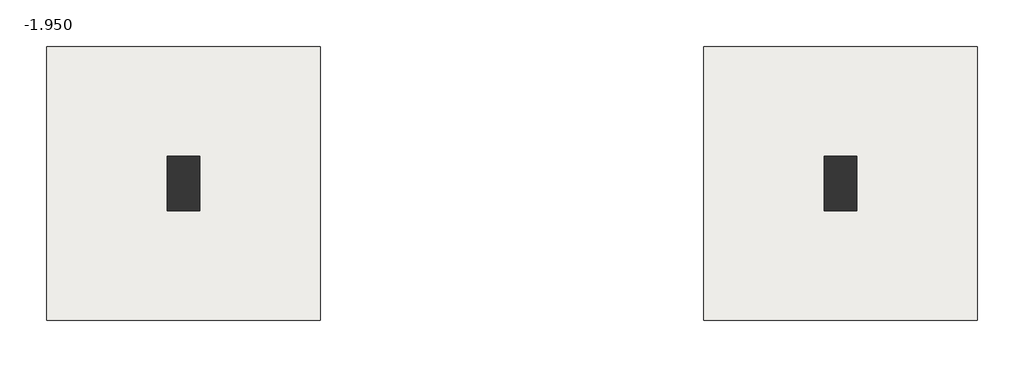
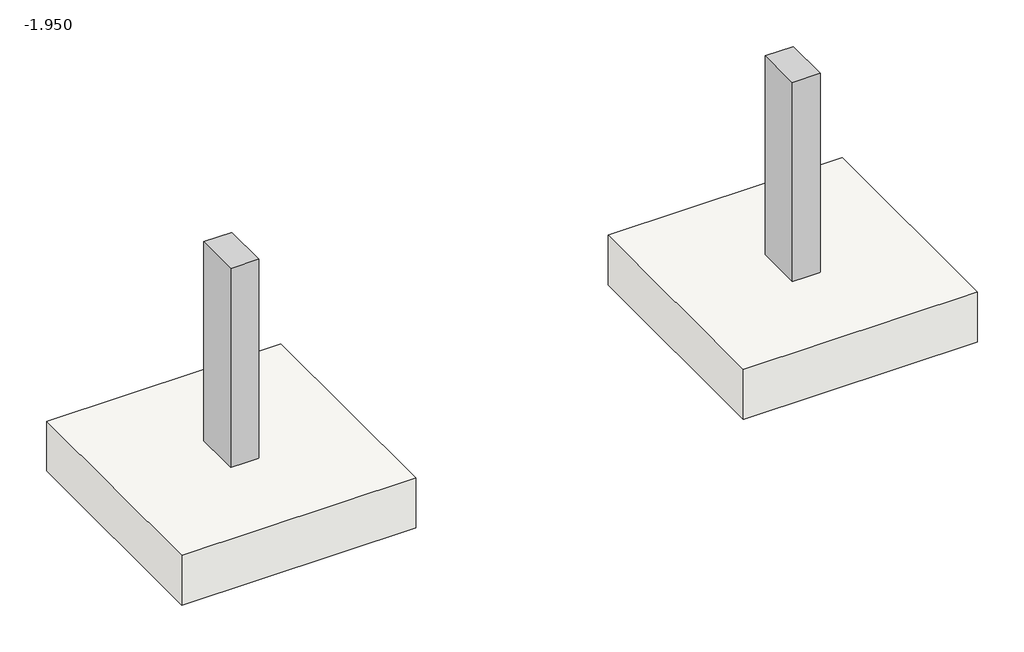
# One storey: 2 columns, 2 slabs.
"""IFC4 building model written with IfcOpenShell, lengths in millimetres."""

from ifc_helpers import new_model, si_unit, frame, origin, place, context, project, spatial, polyline, outline, extrude, transform, mapped, element, save
from components import dj_d551b5b0

model = new_model("IFC4")

# Units and contexts
model_context = context("Model", 3, world=origin())
ifc_project = project(units=[si_unit("LENGTHUNIT", "METRE", prefix="MILLI")], contexts=[model_context])

# Site, building, storey
site = spatial("IfcSite", under=ifc_project)
building = spatial("IfcBuilding", under=site)
storey = spatial("IfcBuildingStorey", under=building, Name="-1.950", Elevation=-1950.0)

# Columns
placement = place(None, origin())
element("IfcColumn", 1, ObjectType="混凝土 - 矩形 - 柱 : KZ2  240X400", at=placement, inside=storey, context=model_context, shape_type="SweptSolid", body=[
    extrude(outline(polyline([(-6904.5197818, -8773.9538269), (-6904.5197818, -9173.9538269), (-7144.5197818, -9173.9538269), (-7144.5197818, -8773.9538269), (-6904.5197818, -8773.9538269)])), frame((0.0, 0.0, -1950.0), z_axis=(0.0, 0.0, 1.0), x_axis=(1.0, 0.0, 0.0)), (0.0, 0.0, 1.0), 1800.0),
])
element("IfcColumn", 2, ObjectType="混凝土 - 矩形 - 柱 : KZ2  240X400", at=placement, inside=storey, context=model_context, shape_type="SweptSolid", body=[
    extrude(outline(polyline([(-2344.5197818, -8773.9538269), (-2104.5197818, -8773.9538269), (-2104.5197818, -9173.9538269), (-2344.5197818, -9173.9538269), (-2344.5197818, -8773.9538269)])), frame((0.0, 0.0, -1950.0), z_axis=(0.0, 0.0, 1.0), x_axis=(1.0, 0.0, 0.0)), (0.0, 0.0, 1.0), 1800.0),
])

# Slabs
dj_shape = dj_d551b5b0(model_context)
element("IfcSlab", 3, ObjectType="独立基础 : DJ", at=placement, inside=storey, context=model_context, shape_type="MappedRepresentation", body=[
    mapped(dj_shape, transform((-7024.5197818, -8973.9538269, -1950.0), x_axis=(1.0, 0.0, 0.0), y_axis=(0.0, 1.0, 0.0), z_axis=(0.0, 0.0, 1.0))),
])
element("IfcSlab", 4, ObjectType="独立基础 : DJ", at=placement, inside=storey, context=model_context, shape_type="MappedRepresentation", body=[
    mapped(dj_shape, transform((-2224.5197818, -8973.9538269, -1950.0), x_axis=(-1.0, 0.0, 0.0), y_axis=(0.0, -1.0, 0.0), z_axis=(0.0, 0.0, 1.0))),
])

save(model, "model.ifc")
